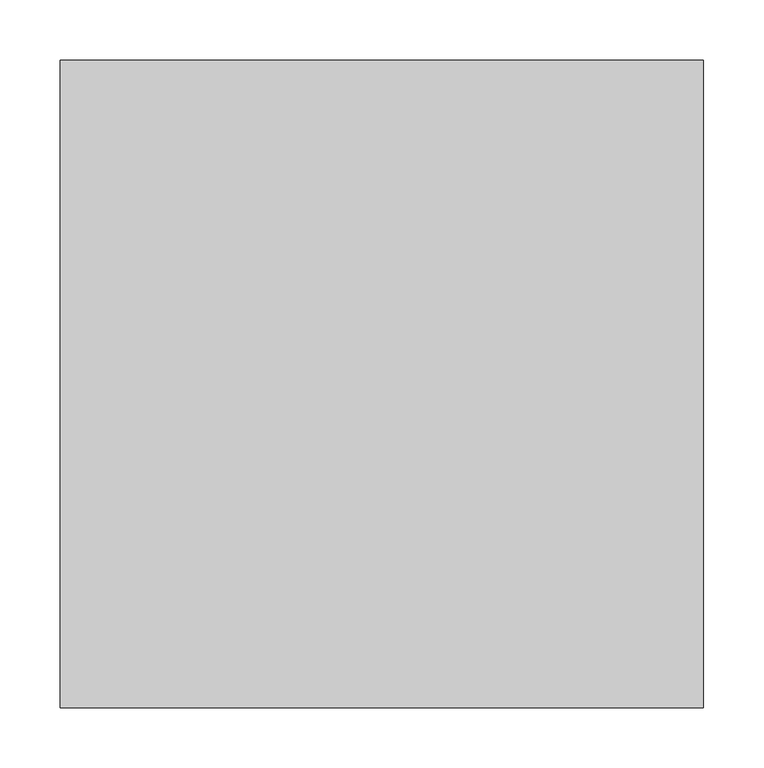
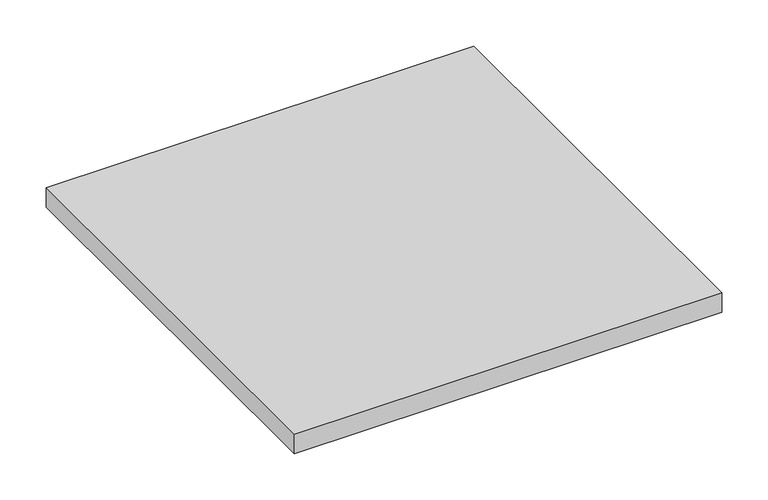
"""IFC4 building model written with IfcOpenShell, lengths in millimetres: furniture geometry."""

from ifc_helpers import new_model, si_unit, frame, origin, place, context, project, spatial, polyline, outline, extrude, source, transform, mapped, element, save


def furniture_200c0cef(model_context):
    return source(origin(), model_context, "Body", "SweptSolid", [
        extrude(outline(polyline([(106.5641996, 262.7913812), (-425.2610004, 262.7913812), (-425.2610004, 797.7915812), (106.5641996, 797.7915812), (106.5641996, 262.7913812)])), frame((0.0, 0.0, 476.25), z_axis=(0.0, 0.0, 1.0), x_axis=(1.0, 0.0, 0.0)), (0.0, 0.0, 1.0), 25.4),
    ])


if __name__ == "__main__":
    model = new_model("IFC4")
    model_context = context("Model", 3, world=origin())
    ifc_project = project(units=[si_unit("LENGTHUNIT", "METRE", prefix="MILLI")], contexts=[model_context])
    site = spatial("IfcSite", under=ifc_project)
    building = spatial("IfcBuilding", under=site)
    placement = place(None, origin())
    furniture_shape = furniture_200c0cef(model_context)
    element("IfcFurniture", 1, ObjectType="HermanMiller_CoStruc_C5041_StorageCaseShelf : 23\"D x 22\"W", at=placement, inside=building, context=model_context, shape_type="MappedRepresentation", body=[
        mapped(furniture_shape, transform((0.0, 0.0, 0.0), x_axis=(1.0, 0.0, 0.0), y_axis=(0.0, 1.0, 0.0), z_axis=(0.0, 0.0, 1.0))),
    ])
    save(model, "model.ifc")
